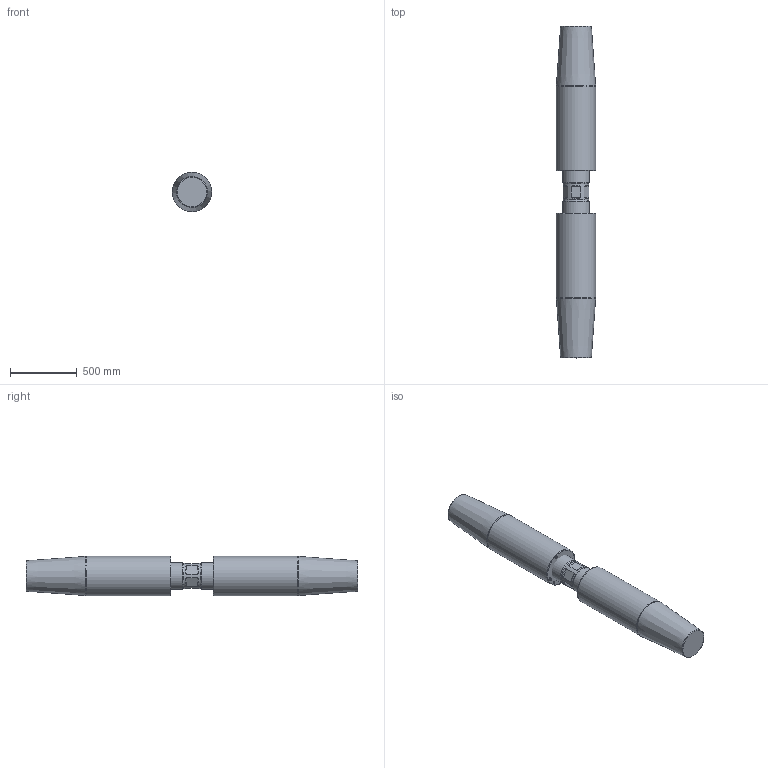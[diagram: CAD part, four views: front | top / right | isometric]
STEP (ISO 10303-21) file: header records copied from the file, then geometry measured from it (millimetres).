
FILE_DESCRIPTION(/* description */ (''),/* implementation_level */ '2;1');
FILE_NAME(/* name */ 'D:\Clienti\Redaelli (inventor)\CYA\STEP\Arrangement\CYA100 52 061 2.stp',/* time_stamp */ '2021-05-09T10:33:07+02:00',/* author */ ('fabri'),/* organization */ (''),/* preprocessor_version */ 'ST-DEVELOPER v16.13',/* originating_system */ 'Autodesk Inventor 2018',/* authorisation */ '');
FILE_SCHEMA (('AUTOMOTIVE_DESIGN { 1 0 10303 214 3 1 1 }'));
Length unit declared in the file: millimetre
Products named in the file (4): CYA012-54-062-0; TBF012-12-012-1; TBF012-13-012-0; TBF012-13-012-0_1
Assembly tree (3 placements, depth 2):
  CYA012-54-062-0
    TBF012-12-012-1
    TBF012-13-012-0
    TBF012-13-012-0_1
Bounding box: 294.8 x 2486 x 294.8 mm (x, y, z)
Volume: 169680452.8 mm3; surface area: 2896432.1 mm2
Topology: 3 solids, 3 shells, 469 faces, 1245 edges, 828 vertices
Faces by surface type: bspline 231, plane 195, cylinder 25, cone 14, torus 4
Full cylindrical faces by diameter (mm): 13.835 x6, 17.294 x2, 194 x1, 200 x2, 295 x2
Entity records: 16009 total; most frequent: CARTESIAN_POINT 5991, ORIENTED_EDGE 2412, DIRECTION 1252, EDGE_CURVE 1206, VERTEX_POINT 820, LINE 682, VECTOR 682, EDGE_LOOP 546
